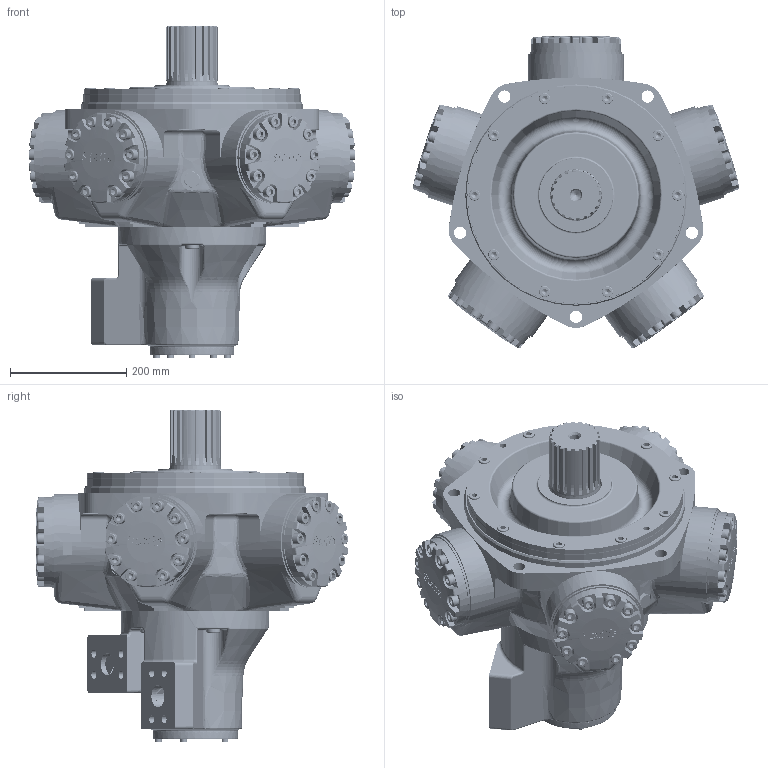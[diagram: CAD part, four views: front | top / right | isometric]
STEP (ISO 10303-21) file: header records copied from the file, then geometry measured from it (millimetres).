
FILE_DESCRIPTION((''),'2;1');
FILE_NAME('I:\3D Step files\Approved for WEB\Staffa\HMB125 S FM4 70.stp','2010-09-28T08:33:15',('mnorman'),(''),'Autodesk Inventor 2011','Autodesk Inventor 2011','');
FILE_SCHEMA(('AUTOMOTIVE_DESIGN { 1 0 10303 214 1 1 1 1 }'));
Length unit declared in the file: millimetre
Products named in the file (1): Part1
Bounding box: 562.18 x 537.45 x 571.11 mm (x, y, z)
Volume: 25307214.3 mm3; surface area: 2152516.3 mm2
Topology: 2 solids, 74 shells, 3876 faces, 8959 edges, 5551 vertices
Faces by surface type: plane 1481, cylinder 900, bspline 832, cone 403, torus 231, sphere 29
Full cylindrical faces by diameter (mm): 7.938 x6, 8.334 x5, 11.328 x62, 11.913 x5, 12.7 x65, 13.494 x10, 13.5 x50, 13.843 x8, 15.875 x10, 16.272 x5, 16.51 x1, 17.323 x1, 19.05 x61, 20.6 x50, 20.638 x10, 21 x5, 23.825 x5, 25 x5, 25.4 x5, 28.575 x5, 28.677 x5, 38.1 x5, 38.176 x5, 79.375 x1, 87.889 x1, 88.837 x1, 88.9 x1, 88.951 x1, 92.075 x1, 92.15 x5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
Entity records: 142557 total; most frequent: CARTESIAN_POINT 62206, ORIENTED_EDGE 15708, DIRECTION 13720, EDGE_CURVE 7854, AXIS2_PLACEMENT_3D 5379, VERTEX_POINT 5338, EDGE_LOOP 5118, FACE_OUTER_BOUND 3867
